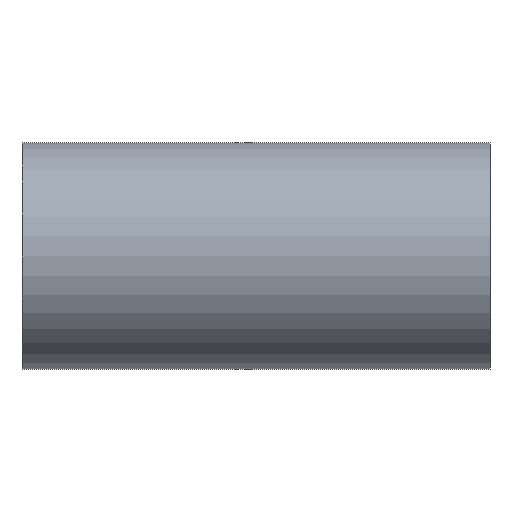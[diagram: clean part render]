
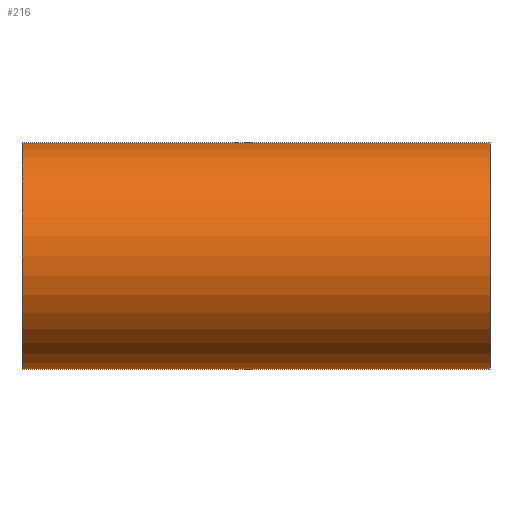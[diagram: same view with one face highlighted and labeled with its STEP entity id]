
A CAD part, front view. The second image highlights one B-rep face of the part: STEP entity #216.
In plain terms, the highlighted cylindrical face has radius 50.8 mm (diameter 101.6 mm), a partial arc.
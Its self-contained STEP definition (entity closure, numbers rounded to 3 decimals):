
#2 = VERTEX_POINT ( 'NONE', #486 ) ;
#17 = CARTESIAN_POINT ( 'NONE',  ( -104.8, 0., 50.8 ) ) ;
#27 = EDGE_CURVE ( 'NONE', #401, #35, #215, .T. ) ;
#35 = VERTEX_POINT ( 'NONE', #488 ) ;
#39 = DIRECTION ( 'NONE',  ( 0., 0., -1. ) ) ;
#67 = ORIENTED_EDGE ( 'NONE', *, *, #27, .T. ) ;
#71 = AXIS2_PLACEMENT_3D ( 'NONE', #115, #285, #39 ) ;
#72 = DIRECTION ( 'NONE',  ( 1., 0., 0. ) ) ;
#108 = CARTESIAN_POINT ( 'NONE',  ( -104.8, 0., 0. ) ) ;
#115 = CARTESIAN_POINT ( 'NONE',  ( -104.8, 0., 0. ) ) ;
#118 = EDGE_CURVE ( 'NONE', #401, #2, #471, .T. ) ;
#119 = CIRCLE ( 'NONE', #550, 50.8 ) ;
#121 = AXIS2_PLACEMENT_3D ( 'NONE', #108, #72, #450 ) ;
#136 = ORIENTED_EDGE ( 'NONE', *, *, #432, .T. ) ;
#215 = CIRCLE ( 'NONE', #71, 50.8 ) ;
#216 = ADVANCED_FACE ( 'NONE', ( #330 ), #442, .T. ) ;
#255 = DIRECTION ( 'NONE',  ( 1., 0., 0. ) ) ;
#263 = ORIENTED_EDGE ( 'NONE', *, *, #118, .F. ) ;
#285 = DIRECTION ( 'NONE',  ( 1., 0., 0. ) ) ;
#293 = EDGE_CURVE ( 'NONE', #378, #2, #119, .T. ) ;
#304 = LINE ( 'NONE', #478, #512 ) ;
#312 = EDGE_LOOP ( 'NONE', ( #263, #67, #136, #491 ) ) ;
#322 = DIRECTION ( 'NONE',  ( 1., 0., 0. ) ) ;
#330 = FACE_OUTER_BOUND ( 'NONE', #312, .T. ) ;
#353 = DIRECTION ( 'NONE',  ( -1., 0., 0. ) ) ;
#374 = VECTOR ( 'NONE', #322, 1000. ) ;
#378 = VERTEX_POINT ( 'NONE', #438 ) ;
#401 = VERTEX_POINT ( 'NONE', #501 ) ;
#432 = EDGE_CURVE ( 'NONE', #35, #378, #304, .T. ) ;
#438 = CARTESIAN_POINT ( 'NONE',  ( 104.8, 0., -50.8 ) ) ;
#442 = CYLINDRICAL_SURFACE ( 'NONE', #121, 50.8 ) ;
#450 = DIRECTION ( 'NONE',  ( 0., 0., -1. ) ) ;
#460 = CARTESIAN_POINT ( 'NONE',  ( 104.8, 0., 0. ) ) ;
#471 = LINE ( 'NONE', #17, #374 ) ;
#478 = CARTESIAN_POINT ( 'NONE',  ( -104.8, 0., -50.8 ) ) ;
#486 = CARTESIAN_POINT ( 'NONE',  ( 104.8, 0., 50.8 ) ) ;
#488 = CARTESIAN_POINT ( 'NONE',  ( -104.8, 0., -50.8 ) ) ;
#491 = ORIENTED_EDGE ( 'NONE', *, *, #293, .T. ) ;
#501 = CARTESIAN_POINT ( 'NONE',  ( -104.8, 0., 50.8 ) ) ;
#512 = VECTOR ( 'NONE', #255, 1000. ) ;
#545 = DIRECTION ( 'NONE',  ( 0., 0., -1. ) ) ;
#550 = AXIS2_PLACEMENT_3D ( 'NONE', #460, #353, #545 ) ;
